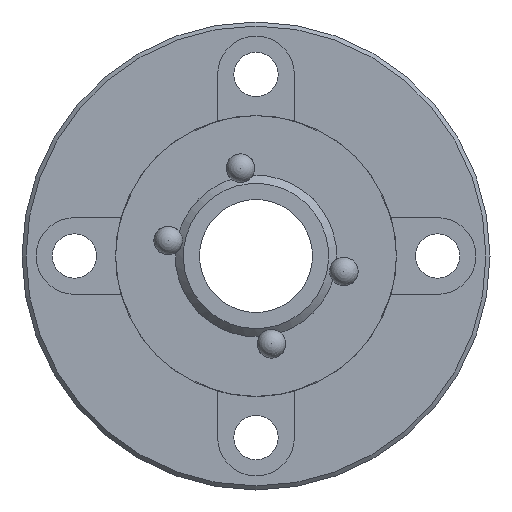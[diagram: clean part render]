
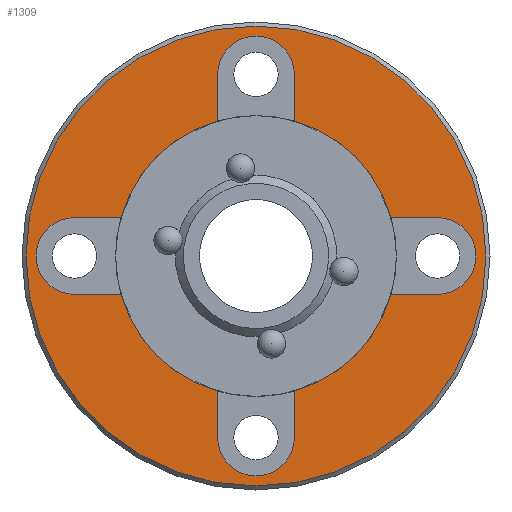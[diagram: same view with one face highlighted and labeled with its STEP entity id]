
A CAD part, left-side view. The second image highlights one B-rep face of the part: STEP entity #1309.
In plain terms, the highlighted planar face has unit normal (-1, 0, 0).
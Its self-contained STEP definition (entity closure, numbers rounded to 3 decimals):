
#54=PLANE('',#1456);
#136=LINE('',#2601,#184);
#137=LINE('',#2602,#185);
#138=LINE('',#2606,#186);
#139=LINE('',#2607,#187);
#140=LINE('',#2611,#188);
#141=LINE('',#2612,#189);
#142=LINE('',#2616,#190);
#143=LINE('',#2617,#191);
#184=VECTOR('',#1720,1000.);
#185=VECTOR('',#1721,1000.);
#186=VECTOR('',#1724,1000.);
#187=VECTOR('',#1725,1000.);
#188=VECTOR('',#1728,1000.);
#189=VECTOR('',#1729,1000.);
#190=VECTOR('',#1732,1000.);
#191=VECTOR('',#1733,1000.);
#345=ORIENTED_EDGE('',*,*,#630,.T.);
#346=ORIENTED_EDGE('',*,*,#631,.T.);
#347=ORIENTED_EDGE('',*,*,#613,.T.);
#348=ORIENTED_EDGE('',*,*,#632,.T.);
#349=ORIENTED_EDGE('',*,*,#633,.T.);
#350=ORIENTED_EDGE('',*,*,#634,.T.);
#351=ORIENTED_EDGE('',*,*,#609,.T.);
#352=ORIENTED_EDGE('',*,*,#635,.T.);
#353=ORIENTED_EDGE('',*,*,#636,.T.);
#354=ORIENTED_EDGE('',*,*,#637,.T.);
#355=ORIENTED_EDGE('',*,*,#605,.T.);
#356=ORIENTED_EDGE('',*,*,#638,.T.);
#357=ORIENTED_EDGE('',*,*,#639,.T.);
#358=ORIENTED_EDGE('',*,*,#640,.T.);
#359=ORIENTED_EDGE('',*,*,#617,.T.);
#360=ORIENTED_EDGE('',*,*,#641,.T.);
#361=ORIENTED_EDGE('',*,*,#628,.T.);
#605=EDGE_CURVE('',#763,#761,#870,.T.);
#609=EDGE_CURVE('',#767,#766,#872,.T.);
#613=EDGE_CURVE('',#771,#770,#874,.T.);
#617=EDGE_CURVE('',#775,#774,#876,.T.);
#628=EDGE_CURVE('',#784,#784,#882,.T.);
#630=EDGE_CURVE('',#786,#787,#884,.T.);
#631=EDGE_CURVE('',#787,#771,#136,.T.);
#632=EDGE_CURVE('',#770,#788,#137,.T.);
#633=EDGE_CURVE('',#788,#789,#885,.T.);
#634=EDGE_CURVE('',#789,#767,#138,.T.);
#635=EDGE_CURVE('',#766,#790,#139,.T.);
#636=EDGE_CURVE('',#790,#791,#886,.T.);
#637=EDGE_CURVE('',#791,#763,#140,.T.);
#638=EDGE_CURVE('',#761,#792,#141,.T.);
#639=EDGE_CURVE('',#792,#793,#887,.T.);
#640=EDGE_CURVE('',#793,#775,#142,.T.);
#641=EDGE_CURVE('',#774,#786,#143,.T.);
#761=VERTEX_POINT('',#2522);
#763=VERTEX_POINT('',#2525);
#766=VERTEX_POINT('',#2531);
#767=VERTEX_POINT('',#2533);
#770=VERTEX_POINT('',#2539);
#771=VERTEX_POINT('',#2541);
#774=VERTEX_POINT('',#2547);
#775=VERTEX_POINT('',#2549);
#784=VERTEX_POINT('',#2594);
#786=VERTEX_POINT('',#2599);
#787=VERTEX_POINT('',#2600);
#788=VERTEX_POINT('',#2603);
#789=VERTEX_POINT('',#2605);
#790=VERTEX_POINT('',#2608);
#791=VERTEX_POINT('',#2610);
#792=VERTEX_POINT('',#2613);
#793=VERTEX_POINT('',#2615);
#870=CIRCLE('',#1439,17.4);
#872=CIRCLE('',#1441,17.4);
#874=CIRCLE('',#1443,17.4);
#876=CIRCLE('',#1445,17.4);
#882=CIRCLE('',#1454,28.5);
#884=CIRCLE('',#1457,4.75);
#885=CIRCLE('',#1458,4.75);
#886=CIRCLE('',#1459,4.75);
#887=CIRCLE('',#1460,4.75);
#987=EDGE_LOOP('',(#345,#346,#347,#348,#349,#350,#351,#352,#353,#354,#355,
#356,#357,#358,#359,#360));
#988=EDGE_LOOP('',(#361));
#1149=FACE_BOUND('',#987,.T.);
#1150=FACE_BOUND('',#988,.T.);
#1309=ADVANCED_FACE('',(#1149,#1150),#54,.F.);
#1439=AXIS2_PLACEMENT_3D('',#2524,#1674,#1675);
#1441=AXIS2_PLACEMENT_3D('',#2532,#1680,#1681);
#1443=AXIS2_PLACEMENT_3D('',#2540,#1686,#1687);
#1445=AXIS2_PLACEMENT_3D('',#2548,#1692,#1693);
#1454=AXIS2_PLACEMENT_3D('',#2593,#1712,#1713);
#1456=AXIS2_PLACEMENT_3D('',#2597,#1716,#1717);
#1457=AXIS2_PLACEMENT_3D('',#2598,#1718,#1719);
#1458=AXIS2_PLACEMENT_3D('',#2604,#1722,#1723);
#1459=AXIS2_PLACEMENT_3D('',#2609,#1726,#1727);
#1460=AXIS2_PLACEMENT_3D('',#2614,#1730,#1731);
#1674=DIRECTION('',(1.,0.,0.));
#1675=DIRECTION('',(0.,0.,-1.));
#1680=DIRECTION('',(1.,0.,0.));
#1681=DIRECTION('',(0.,0.,-1.));
#1686=DIRECTION('',(1.,0.,0.));
#1687=DIRECTION('',(0.,0.,-1.));
#1692=DIRECTION('',(1.,0.,0.));
#1693=DIRECTION('',(0.,0.,-1.));
#1712=DIRECTION('',(-1.,0.,0.));
#1713=DIRECTION('',(0.,0.,1.));
#1716=DIRECTION('',(1.,0.,0.));
#1717=DIRECTION('',(0.,0.,-1.));
#1718=DIRECTION('',(1.,0.,0.));
#1719=DIRECTION('',(0.,-1.,0.));
#1720=DIRECTION('',(0.,-1.,0.));
#1721=DIRECTION('',(0.,0.,1.));
#1722=DIRECTION('',(1.,0.,0.));
#1723=DIRECTION('',(0.,1.,0.));
#1724=DIRECTION('',(0.,0.,-1.));
#1725=DIRECTION('',(0.,-1.,0.));
#1726=DIRECTION('',(1.,0.,0.));
#1727=DIRECTION('',(0.,1.,0.));
#1728=DIRECTION('',(0.,1.,0.));
#1729=DIRECTION('',(0.,0.,-1.));
#1730=DIRECTION('',(1.,0.,0.));
#1731=DIRECTION('',(0.,-1.,0.));
#1732=DIRECTION('',(0.,0.,1.));
#1733=DIRECTION('',(0.,1.,0.));
#2522=CARTESIAN_POINT('',(-28.,-4.75,-16.739));
#2524=CARTESIAN_POINT('',(-28.,0.,0.));
#2525=CARTESIAN_POINT('',(-28.,-16.739,-4.75));
#2531=CARTESIAN_POINT('',(-28.,-16.739,4.75));
#2532=CARTESIAN_POINT('',(-28.,0.,0.));
#2533=CARTESIAN_POINT('',(-28.,-4.75,16.739));
#2539=CARTESIAN_POINT('',(-28.,4.75,16.739));
#2540=CARTESIAN_POINT('',(-28.,0.,0.));
#2541=CARTESIAN_POINT('',(-28.,16.739,4.75));
#2547=CARTESIAN_POINT('',(-28.,16.739,-4.75));
#2548=CARTESIAN_POINT('',(-28.,0.,0.));
#2549=CARTESIAN_POINT('',(-28.,4.75,-16.739));
#2593=CARTESIAN_POINT('',(-28.,0.,0.));
#2594=CARTESIAN_POINT('',(-28.,0.,28.5));
#2597=CARTESIAN_POINT('',(-28.,28.5,0.));
#2598=CARTESIAN_POINT('',(-28.,22.5,0.));
#2599=CARTESIAN_POINT('',(-28.,22.5,-4.75));
#2600=CARTESIAN_POINT('',(-28.,22.5,4.75));
#2601=CARTESIAN_POINT('',(-28.,22.5,4.75));
#2602=CARTESIAN_POINT('',(-28.,4.75,4.75));
#2603=CARTESIAN_POINT('',(-28.,4.75,22.5));
#2604=CARTESIAN_POINT('',(-28.,0.,22.5));
#2605=CARTESIAN_POINT('',(-28.,-4.75,22.5));
#2606=CARTESIAN_POINT('',(-28.,-4.75,22.5));
#2607=CARTESIAN_POINT('',(-28.,-4.75,4.75));
#2608=CARTESIAN_POINT('',(-28.,-22.5,4.75));
#2609=CARTESIAN_POINT('',(-28.,-22.5,0.));
#2610=CARTESIAN_POINT('',(-28.,-22.5,-4.75));
#2611=CARTESIAN_POINT('',(-28.,-22.5,-4.75));
#2612=CARTESIAN_POINT('',(-28.,-4.75,-4.75));
#2613=CARTESIAN_POINT('',(-28.,-4.75,-22.5));
#2614=CARTESIAN_POINT('',(-28.,0.,-22.5));
#2615=CARTESIAN_POINT('',(-28.,4.75,-22.5));
#2616=CARTESIAN_POINT('',(-28.,4.75,-22.5));
#2617=CARTESIAN_POINT('',(-28.,4.75,-4.75));
